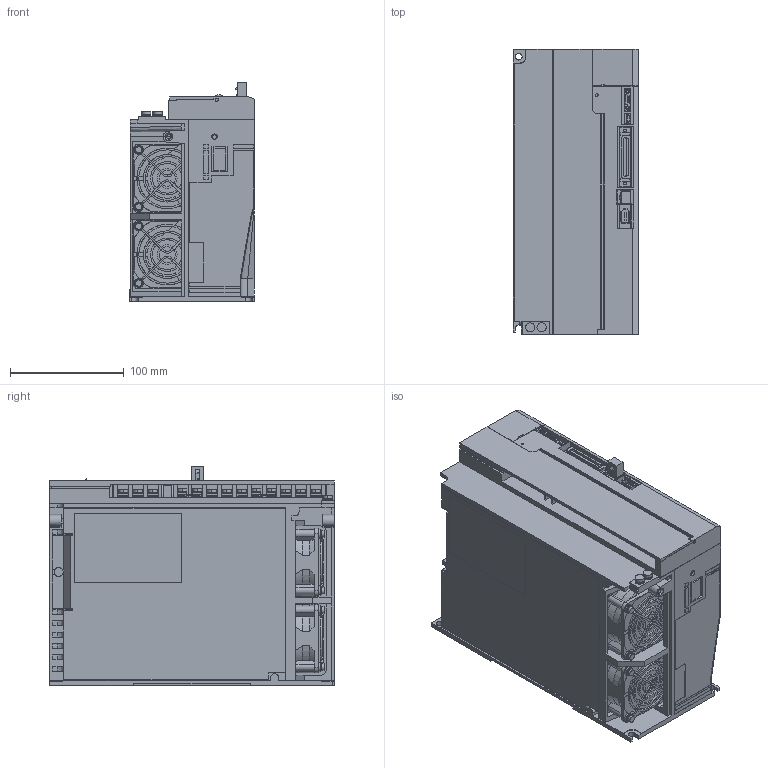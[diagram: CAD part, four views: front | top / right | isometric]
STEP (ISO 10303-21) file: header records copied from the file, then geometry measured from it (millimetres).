
FILE_DESCRIPTION (( 'STEP AP203' ), '1' );
FILE_NAME ('sgdv_8r4d0_a.STEP', '2008-06-17T08:34:21', ( 'T' ), ( 'T' ), 'SwSTEP 2.0', 'SolidWorks 2006052', '' );
FILE_SCHEMA (( 'CONFIG_CONTROL_DESIGN' ));
Products named in the file (7): sgdv_8r4d0_a_base; sgdv_8r4d0_a_terminal; sgdv_8r4d0_a; sgdv_8r4d0_a_cover; sgdv_8r4d0_a_cover2; sgdv_8r4d0_a_connector; sgdv_8r4d0_a_cover3
Assembly tree (8 placements, depth 2):
  sgdv_8r4d0_a
    sgdv_8r4d0_a_terminal  x2
    sgdv_8r4d0_a_cover2  x2
    sgdv_8r4d0_a_connector
    sgdv_8r4d0_a_base
    sgdv_8r4d0_a_cover3
    sgdv_8r4d0_a_cover
Bounding box: 110.5 x 250 x 193 mm (x, y, z)
Volume: 4319895.4 mm3; surface area: 307088.8 mm2
Topology: 8 solids, 12 shells, 2410 faces, 6564 edges, 4333 vertices
Faces by surface type: plane 1886, cylinder 496, cone 24, bspline 3, sphere 1
Entity records: 75159 total; most frequent: CARTESIAN_POINT 13301, ORIENTED_EDGE 12888, DIRECTION 12328, EDGE_CURVE 6444, VECTOR 5228, LINE 5228, VERTEX_POINT 4253, AXIS2_PLACEMENT_3D 3550
